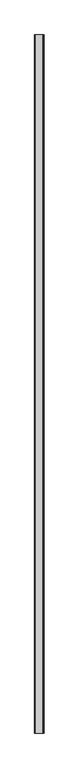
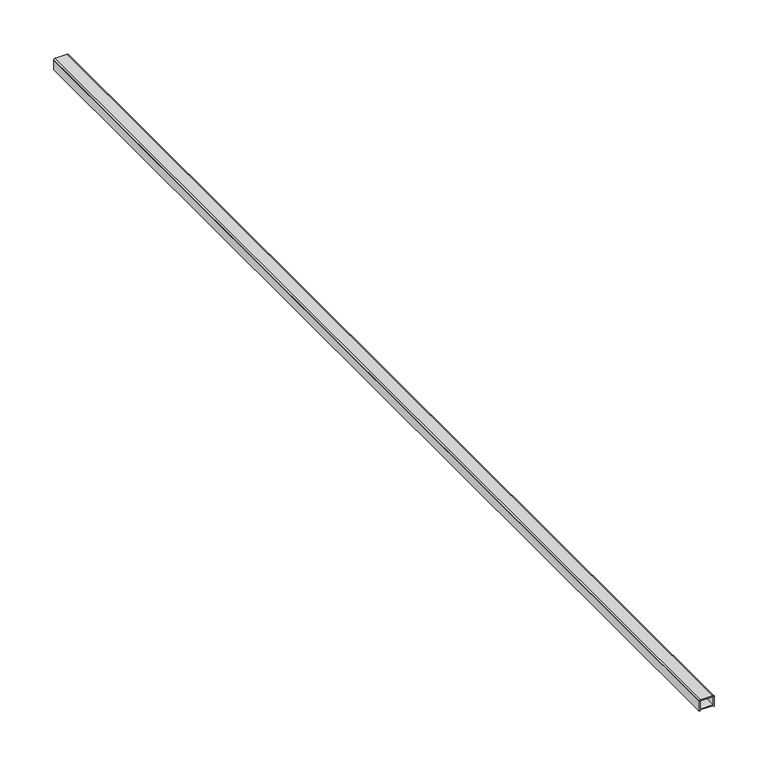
"""IFC4 building model written with IfcOpenShell, lengths in millimetres: proxy geometry, PORTOBELLO - METALLICA MET LUMI 1,6X120 : LUMI 1,6X120."""

from ifc_helpers import new_model, si_unit, point, frame, frame_2d, origin, place, context, project, spatial, polyline, circle_curve, trimmed, segment, composite_curve, outline, extrude, source, transform, mapped, element, save


def generic_models_3d10f0a6(model_context):
    return source(origin(), model_context, "Body", "SweptSolid", [
        extrude(outline(polyline([(-10.9620317, 8.0), (0.0, 8.0), (0.0, 6.7910928), (-9.2416656, 6.7910928), (-9.2416656, -6.7910928), (0.0, -6.7910928), (0.0, -8.0), (-10.9620317, -8.0), (-10.9620317, -6.7910928), (-10.0706009, -6.7910928), (-10.0706009, 6.7910928), (-10.9620317, 6.7910928), (-10.9620317, 8.0)])), frame((0.0, -600.0, 0.0), z_axis=(0.0, 1.0, 0.0), x_axis=(0.0, 0.0, 1.0)), (0.0, 0.0, 1.0), 1200.0),
        extrude(outline(composite_curve([segment(polyline([(0.0, -8.0), (0.0, 8.0)]), True, "CONTINUOUS"), segment(trimmed(circle_curve(frame_2d((0.0, 6.5)), 1.5), [point((0.0, 8.0))], [point((1.5, 6.5))], False, "CARTESIAN"), True, "CONTINUOUS"), segment(polyline([(1.5, 6.5), (1.5, -6.5)]), True, "CONTINUOUS"), segment(trimmed(circle_curve(frame_2d((0.0, -6.5)), 1.5), [point((1.5, -6.5))], [point((0.0, -8.0))], False, "CARTESIAN"), True, "CONTINUOUS")], self_intersect=False)), frame((0.0, -600.0, 0.0), z_axis=(0.0, 1.0, 0.0), x_axis=(0.0, 0.0, 1.0)), (0.0, 0.0, 1.0), 1200.0),
    ])


if __name__ == "__main__":
    model = new_model("IFC4")
    model_context = context("Model", 3, world=origin())
    ifc_project = project(units=[si_unit("LENGTHUNIT", "METRE", prefix="MILLI")], contexts=[model_context])
    site = spatial("IfcSite", under=ifc_project)
    building = spatial("IfcBuilding", under=site)
    placement = place(None, origin())
    generic_models_shape = generic_models_3d10f0a6(model_context)
    element("IfcBuildingElementProxy", 1, Name="PORTOBELLO - METALLICA MET LUMI 1,6X120 : LUMI 1,6X120", ObjectType="PORTOBELLO - METALLICA MET LUMI 1,6X120 : LUMI 1,6X120", at=placement, inside=building, context=model_context, shape_type="MappedRepresentation", body=[
        mapped(generic_models_shape, transform((0.0, 0.0, 0.0), x_axis=(1.0, 0.0, 0.0), y_axis=(0.0, 1.0, 0.0), z_axis=(0.0, 0.0, 1.0))),
    ])
    save(model, "model.ifc")
